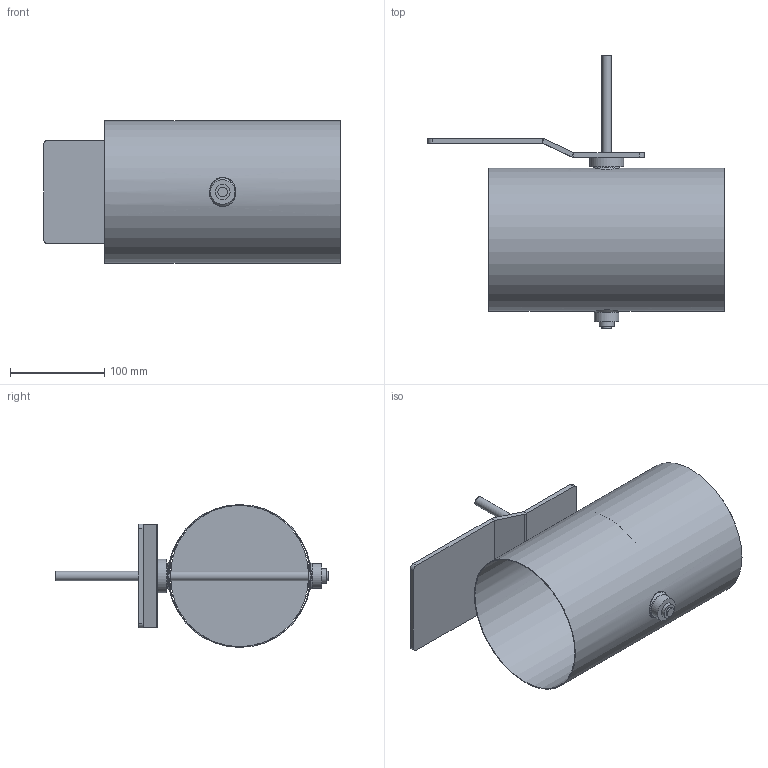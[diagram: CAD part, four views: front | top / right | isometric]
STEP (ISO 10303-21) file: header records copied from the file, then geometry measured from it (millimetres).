
FILE_DESCRIPTION(/* description */ (''),/* implementation_level */ '2;1');
FILE_NAME(/* name */ 'AA124-80B__150_L250_Belimo_Typen_NF_SF.stp',/* time_stamp */ '2017-12-06T12:11:48+01:00',/* author */ (''),/* organization */ (''),/* preprocessor_version */ 'ST-DEVELOPER v11',/* originating_system */ 'SIEMENS UGS NX 6.0',/* authorisation */ '');
FILE_SCHEMA (('CONFIG_CONTROL_DESIGN'));
Length unit declared in the file: millimetre
Products named in the file (1): gars18E2j1y0
Bounding box: 315 x 289 x 151.6 mm (x, y, z)
Volume: 279664.4 mm3; surface area: 345933.8 mm2
Topology: 8 solids, 8 shells, 82 faces, 174 edges, 114 vertices
Faces by surface type: plane 40, cylinder 30, cone 4, bspline 4, torus 4
Full cylindrical faces by diameter (mm): 4.1 x4, 10 x3, 15 x3, 15.85 x2, 16 x2, 24 x2, 26 x1, 36 x1, 150 x1, 151.6 x1
Entity records: 2580 total; most frequent: CARTESIAN_POINT 899, DIRECTION 342, ORIENTED_EDGE 248, AXIS2_PLACEMENT_3D 147, EDGE_LOOP 144, EDGE_CURVE 124, FACE_BOUND 114, VERTEX_POINT 96
